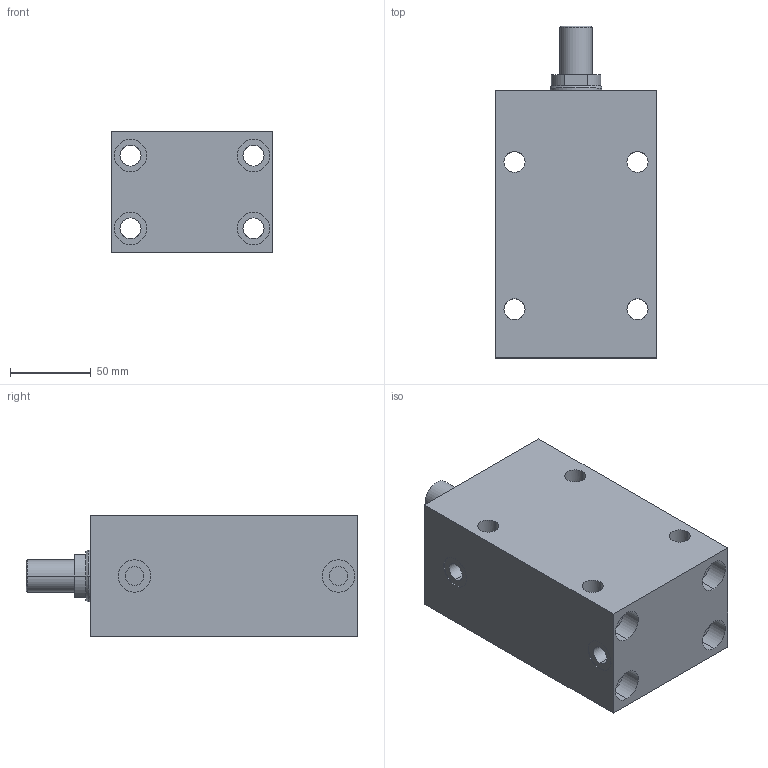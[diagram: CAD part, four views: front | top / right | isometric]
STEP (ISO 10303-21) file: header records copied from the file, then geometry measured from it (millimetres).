
FILE_DESCRIPTION (( 'STEP AP203' ), '1' );
FILE_NAME ('GERMA_Blockzylinder_600-050-100-A.STEP', '2015-08-22T18:31:23', ( '' ), ( '' ), 'SwSTEP 2.0', 'SolidWorks 2015', '' );
FILE_SCHEMA (( 'CONFIG_CONTROL_DESIGN' ));
Length unit declared in the file: millimetre
Products named in the file (3): Kolben 60x-050_Kolben DU.50-Hub100-AG; GERMA_Blockzylinder_600-050-100-A; GH-600-050_GH-600-050-100
Assembly tree (2 placements, depth 2):
  GERMA_Blockzylinder_600-050-100-A
    GH-600-050_GH-600-050-100
    Kolben 60x-050_Kolben DU.50-Hub100-AG
Bounding box: 100 x 205 x 75 mm (x, y, z)
Volume: 1000547.4 mm3; surface area: 155936.8 mm2
Topology: 2 solids, 2 shells, 133 faces, 318 edges, 189 vertices
Faces by surface type: cylinder 91, plane 30, cone 12
Entity records: 4158 total; most frequent: CARTESIAN_POINT 833, DIRECTION 655, ORIENTED_EDGE 628, EDGE_CURVE 314, AXIS2_PLACEMENT_3D 267, VERTEX_POINT 189, EDGE_LOOP 169, FACE_OUTER_BOUND 133
